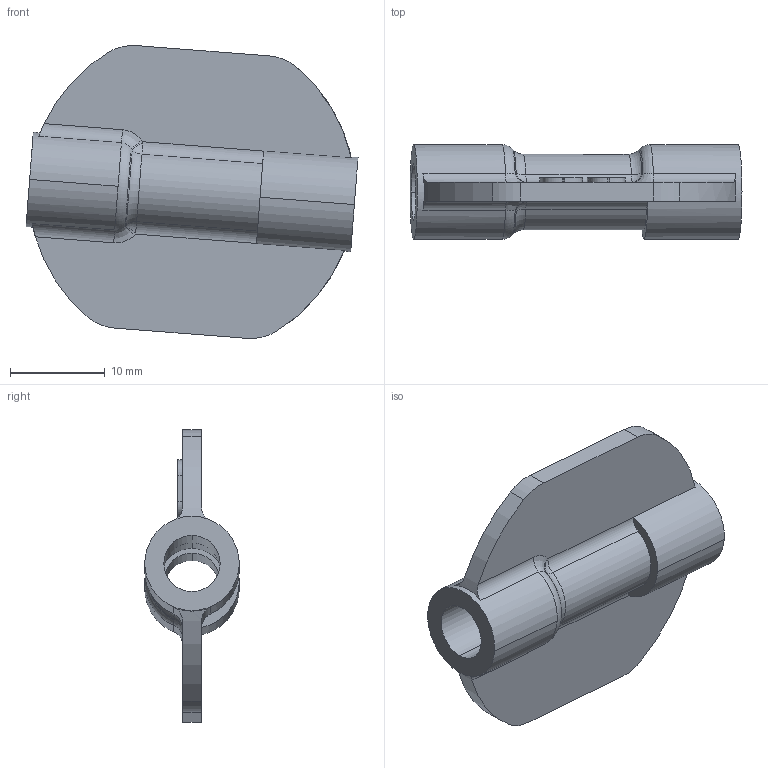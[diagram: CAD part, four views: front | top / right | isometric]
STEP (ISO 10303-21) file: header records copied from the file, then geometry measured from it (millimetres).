
FILE_DESCRIPTION((''),'2;1');
FILE_NAME('0000237057_PRT','2025-11-12T18:33:05',('Wyndorps'),(''),'CREO PARAMETRIC BY PTC INC, 2025010','CREO PARAMETRIC BY PTC INC, 2025010','');
FILE_SCHEMA(('CONFIG_CONTROL_DESIGN'));
Length unit declared in the file: millimetre
Products named in the file (1): 0000237057_PRT
Bounding box: 35.11 x 10 x 30.96 mm (x, y, z)
Volume: 2382.9 mm3; surface area: 3021.8 mm2
Topology: 1 solids, 1 shells, 113 faces, 280 edges, 176 vertices
Faces by surface type: plane 38, cylinder 30, extrusion 18, bspline 12, torus 6, sphere 6, cone 3
Entity records: 4087 total; most frequent: CARTESIAN_POINT 1482, ORIENTED_EDGE 560, DIRECTION 476, EDGE_CURVE 280, VERTEX_POINT 176, AXIS2_PLACEMENT_3D 165, VECTOR 146, LINE 128
